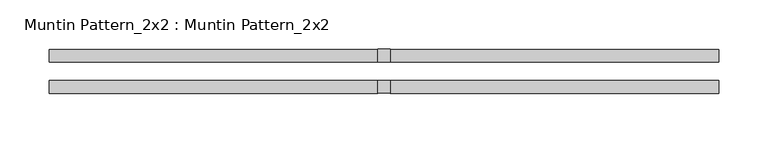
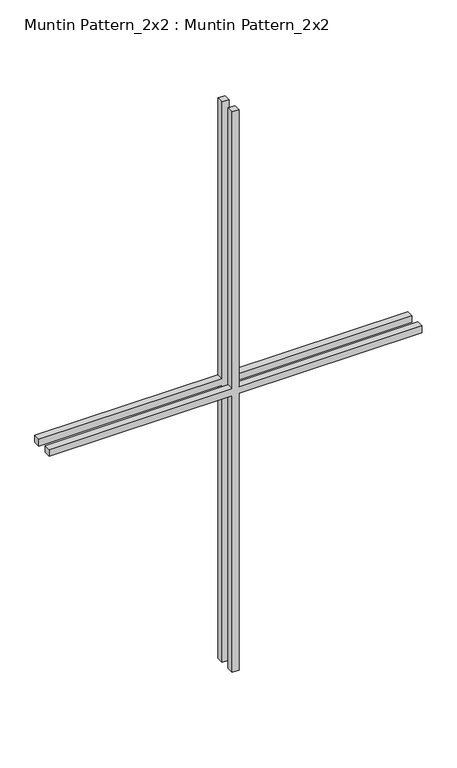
"""IFC4 building model written with IfcOpenShell, lengths in millimetres: proxy geometry, Muntin Pattern_2x2 : Muntin Pattern_2x2."""

import ifcopenshell
import ifcopenshell.guid

model = None  # the IFC model being written
_history = None  # IfcOwnerHistory: only IFC2X3 demands one
_inside = {}  # id of a spatial element -> (the spatial element, [elements in it])
_under = {}  # id of a project, library or spatial element -> (it, [spatial elements below it])
_declared = {}  # id of a project -> (the project, [libraries it declares])
_typed = {}  # id of a type object -> (the type object, [elements of that type])
_made_of = {}  # id of a material, layer set ... -> (it, [elements and type objects made of it])


def new_model(schema):
    """Start an empty IFC model of exactly this schema.

    Asked for "IFC4X3", IfcOpenShell would pick the latest addendum, in which some entities
    have other attributes; the version numbers below select the first issue.
    IFC2X3 requires an IfcOwnerHistory on every rooted entity: one is made here for all.
    """
    global model, _history
    if schema == "IFC4X3":
        model = ifcopenshell.file(schema_version=(4, 3, 0, 0))
    else:
        model = ifcopenshell.file(schema=schema)
    _inside.clear()
    _under.clear()
    _declared.clear()
    _typed.clear()
    _made_of.clear()
    _history = None
    if model.schema == "IFC2X3":
        org = make("IfcOrganization", Name="unknown")
        user = make(
            "IfcPersonAndOrganization",
            ThePerson=make("IfcPerson", FamilyName="unknown"),
            TheOrganization=org,
        )
        app = make(
            "IfcApplication",
            ApplicationDeveloper=org,
            Version="unknown",
            ApplicationFullName="unknown",
            ApplicationIdentifier="unknown",
        )
        _history = make(
            "IfcOwnerHistory",
            OwningUser=user,
            OwningApplication=app,
            ChangeAction="ADDED",
            CreationDate=0,
        )
    return model


def make(cls, **values):
    """One entity of the class cls with the attributes given. An attribute that is None is left unset."""
    return model.create_entity(
        cls, **{name: value for name, value in values.items() if value is not None}
    )


def rooted(cls, **values):
    """An entity with a GlobalId (a new one), such as an element, a storey or a relation."""
    return make(cls, GlobalId=ifcopenshell.guid.new(), OwnerHistory=_history, **values)


def si_unit(unit_type, name, prefix=None):
    """IfcSIUnit, for example si_unit("LENGTHUNIT", "METRE", prefix="MILLI")."""
    return make("IfcSIUnit", UnitType=unit_type, Prefix=prefix, Name=name)


def assignment(units):
    """IfcUnitAssignment: the units of a project."""
    return None if units is None else make("IfcUnitAssignment", Units=units)


def point(xyz):
    """IfcCartesianPoint."""
    return None if xyz is None else make("IfcCartesianPoint", Coordinates=xyz)


def direction(xyz):
    """IfcDirection."""
    return None if xyz is None else make("IfcDirection", DirectionRatios=xyz)


def frame(location, z_axis=None, x_axis=None):
    """IfcAxis2Placement3D, a coordinate frame: its origin and axes. An axis left out is left unset."""
    return make(
        "IfcAxis2Placement3D",
        Location=point(location),
        Axis=direction(z_axis),
        RefDirection=direction(x_axis),
    )


def origin():
    """The frame at (0, 0, 0) with its axes left unset."""
    return frame((0.0, 0.0, 0.0))


def place(relative_to, where):
    """IfcLocalPlacement: puts the frame where relative to a parent placement (None: the world)."""
    return make(
        "IfcLocalPlacement", PlacementRelTo=relative_to, RelativePlacement=where
    )


def context(
    kind, dimensions, precision=None, world=None, true_north=None, identifier=None
):
    """IfcGeometricRepresentationContext, for example the 3D "Model" context."""
    return make(
        "IfcGeometricRepresentationContext",
        ContextIdentifier=identifier,
        ContextType=kind,
        CoordinateSpaceDimension=dimensions,
        Precision=precision,
        WorldCoordinateSystem=world,
        TrueNorth=true_north,
    )


def project(units=None, contexts=None):
    """IfcProject with its units and contexts."""
    return rooted(
        "IfcProject",
        Name="project",
        RepresentationContexts=contexts,
        UnitsInContext=assignment(units),
    )


def spatial(cls, under=None, at=None, **own):
    """A site, building, storey or space (cls), placed at a placement, below another one or the project."""
    s = rooted(cls, ObjectPlacement=at, **own)
    if under is not None:
        _under.setdefault(under.id(), (under, []))[1].append(s)
    return s


def polyline(points):
    """IfcPolyline through the points."""
    return make("IfcPolyline", Points=[point(p) for p in points])


def outline(outer, holes=None, kind="AREA"):
    """IfcArbitraryClosedProfileDef: a profile drawn as a closed curve; with holes, ...WithVoids."""
    if holes is None:
        return make("IfcArbitraryClosedProfileDef", ProfileType=kind, OuterCurve=outer)
    return make(
        "IfcArbitraryProfileDefWithVoids",
        ProfileType=kind,
        OuterCurve=outer,
        InnerCurves=holes,
    )


def extrude(swept, where, along, depth):
    """IfcExtrudedAreaSolid: the profile swept, set in the frame where, extruded along a direction by depth."""
    return make(
        "IfcExtrudedAreaSolid",
        SweptArea=swept,
        Position=where,
        ExtrudedDirection=direction(along),
        Depth=depth,
    )


def shape(context_of_items, identifier, shape_type, items):
    """IfcShapeRepresentation: the items that make up one representation, for example the "Body"."""
    return make(
        "IfcShapeRepresentation",
        ContextOfItems=context_of_items,
        RepresentationIdentifier=identifier,
        RepresentationType=shape_type,
        Items=items,
    )


def source(mapping_origin, context_of_items, identifier, shape_type, items):
    """IfcRepresentationMap: a shape defined once, which mapped items show again and again."""
    return make(
        "IfcRepresentationMap",
        MappingOrigin=mapping_origin,
        MappedRepresentation=shape(context_of_items, identifier, shape_type, items),
    )


def transform(
    local_origin,
    x_axis=None,
    y_axis=None,
    z_axis=None,
    scale=None,
    scale2=None,
    scale3=None,
    uniform=True,
):
    """IfcCartesianTransformationOperator3D, or its non-uniform kind. x_axis, y_axis, z_axis: its Axis1, 2, 3."""
    if uniform:
        return make(
            "IfcCartesianTransformationOperator3D",
            Axis1=direction(x_axis),
            Axis2=direction(y_axis),
            LocalOrigin=point(local_origin),
            Scale=scale,
            Axis3=direction(z_axis),
        )
    return make(
        "IfcCartesianTransformationOperator3DnonUniform",
        Axis1=direction(x_axis),
        Axis2=direction(y_axis),
        LocalOrigin=point(local_origin),
        Scale=scale,
        Axis3=direction(z_axis),
        Scale2=scale2,
        Scale3=scale3,
    )


def mapped(mapping_source, mapping_target):
    """IfcMappedItem: shows the shape of a source again, moved by a transform."""
    return make(
        "IfcMappedItem", MappingSource=mapping_source, MappingTarget=mapping_target
    )


def made_of(thing, what):
    """Note that an element or type object is made of a material, layer set ...; save() writes the relation."""
    if what is not None:
        _made_of.setdefault(what.id(), (what, []))[1].append(thing)
    return thing


def element(
    cls,
    number,
    at=None,
    inside=None,
    cuts=None,
    type_object=None,
    material=None,
    context=None,
    identifier="Body",
    shape_type=None,
    held_by="IfcProductDefinitionShape",
    body=None,
    shapes=None,
    **own,
):
    """One element of the class cls, such as IfcWall. Its Tag is "e" and its number.

    at: its placement. inside: the storey or other place that contains it. cuts: it is an
    opening in that element (IfcRelVoidsElement). A single representation is given by context,
    identifier, shape_type and body (its items); several are given by shapes. held_by: the class
    of the entity that holds the representations. save() writes the other relations.
    """
    e = rooted(cls, Tag="e%d" % number, ObjectPlacement=at, **own)
    if body is not None:
        shapes = [shape(context, identifier, shape_type, body)]
    if shapes is not None:
        e.Representation = make(held_by, Representations=shapes)
    if inside is not None:
        _inside.setdefault(inside.id(), (inside, []))[1].append(e)
    if cuts is not None:
        rooted(
            "IfcRelVoidsElement", RelatingBuildingElement=cuts, RelatedOpeningElement=e
        )
    if type_object is not None:
        _typed.setdefault(type_object.id(), (type_object, []))[1].append(e)
    return made_of(e, material)


def aggregate(whole, parts):
    """IfcRelAggregates: a whole, such as a stair, and the parts it consists of."""
    return rooted("IfcRelAggregates", RelatingObject=whole, RelatedObjects=parts)


def save(model, path):
    """Write the relations noted so far, then the file.

    IfcRelAggregates (storeys below a building ...), IfcRelContainedInSpatialStructure (elements
    in a storey), IfcRelDefinesByType, IfcRelAssociatesMaterial and IfcRelDeclares: one each for
    every whole, place, type object, material and project.
    """
    for whole, parts in _under.values():
        aggregate(whole, parts)
    for where, things in _inside.values():
        rooted(
            "IfcRelContainedInSpatialStructure",
            RelatedElements=things,
            RelatingStructure=where,
        )
    for kind, things in _typed.values():
        rooted("IfcRelDefinesByType", RelatedObjects=things, RelatingType=kind)
    for what, things in _made_of.values():
        rooted("IfcRelAssociatesMaterial", RelatedObjects=things, RelatingMaterial=what)
    for by, libraries in _declared.values():
        rooted("IfcRelDeclares", RelatingContext=by, RelatedDefinitions=libraries)
    model.write(path)


def muntin_pattern_2x2_muntin_pattern_2x2_3179e719(model_context):
    return source(origin(), model_context, "Body", "SweptSolid", [
        extrude(outline(polyline([(542.925, -6.35), (542.925, -338.1375), (530.225, -338.1375), (530.225, -6.35), (0.0, -6.35), (0.0, 6.35), (530.225, 6.35), (530.225, 338.1375), (542.925, 338.1375), (542.925, 6.35), (1073.15, 6.35), (1073.15, -6.35), (542.925, -6.35)])), frame((0.0, 9.525, 0.0), z_axis=(0.0, 1.0, 0.0), x_axis=(0.0, 0.0, 1.0)), (0.0, 0.0, 1.0), 12.7),
        extrude(outline(polyline([(542.925, -6.35), (542.925, -338.1375), (530.225, -338.1375), (530.225, -6.35), (0.0, -6.35), (0.0, 6.35), (530.225, 6.35), (530.225, 338.1375), (542.925, 338.1375), (542.925, 6.35), (1073.15, 6.35), (1073.15, -6.35), (542.925, -6.35)])), frame((0.0, -22.225, 0.0), z_axis=(0.0, 1.0, 0.0), x_axis=(0.0, 0.0, 1.0)), (0.0, 0.0, 1.0), 12.7),
    ])


if __name__ == "__main__":
    model = new_model("IFC4")
    model_context = context("Model", 3, world=origin())
    ifc_project = project(units=[si_unit("LENGTHUNIT", "METRE", prefix="MILLI")], contexts=[model_context])
    site = spatial("IfcSite", under=ifc_project)
    building = spatial("IfcBuilding", under=site)
    placement = place(None, origin())
    muntin_pattern_2x2_muntin_pattern_2x2_shape = muntin_pattern_2x2_muntin_pattern_2x2_3179e719(model_context)
    element("IfcBuildingElementProxy", 1, Name="Muntin Pattern_2x2 : Muntin Pattern_2x2", ObjectType="Muntin Pattern_2x2 : Muntin Pattern_2x2", at=placement, inside=building, context=model_context, shape_type="MappedRepresentation", body=[
        mapped(muntin_pattern_2x2_muntin_pattern_2x2_shape, transform((0.0, 0.0, 0.0), x_axis=(1.0, 0.0, 0.0), y_axis=(0.0, 1.0, 0.0), z_axis=(0.0, 0.0, 1.0))),
    ])
    save(model, "model.ifc")
